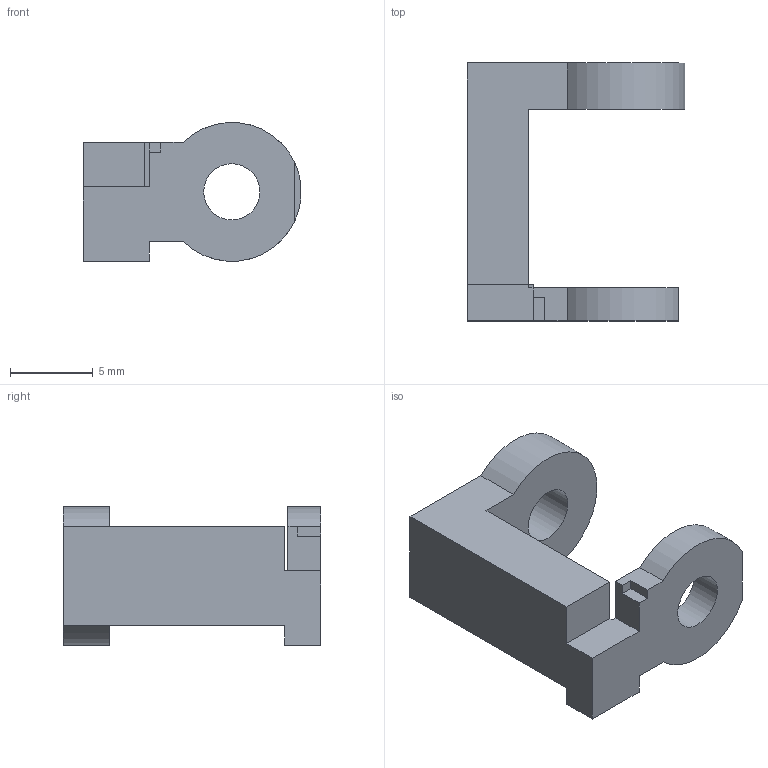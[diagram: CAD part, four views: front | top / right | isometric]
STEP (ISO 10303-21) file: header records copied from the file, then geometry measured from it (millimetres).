
FILE_DESCRIPTION(('Open CASCADE Model'),'2;1');
FILE_NAME('P09-P10-P09_P10_common_follower.step', '', ('Noah Wilson'), (''), '', '', '');
FILE_SCHEMA(('AUTOMOTIVE_DESIGN { 1 0 10303 214 1 1 1 1 }'));
Length unit declared in the file: millimetre
Products named in the file (1): COMPOUND
Bounding box: 13.18 x 15.6 x 8.39 mm (x, y, z)
Volume: 596.1 mm3; surface area: 718 mm2
Topology: 1 solids, 1 shells, 26 faces, 70 edges, 46 vertices
Faces by surface type: plane 21, cylinder 5
Full cylindrical faces by diameter (mm): 3.4 x2
Entity records: 1753 total; most frequent: CARTESIAN_POINT 347, DIRECTION 255, LINE 180, VECTOR 180, ORIENTED_EDGE 140, PCURVE 140, DEFINITIONAL_REPRESENTATION 140, EDGE_CURVE 70
